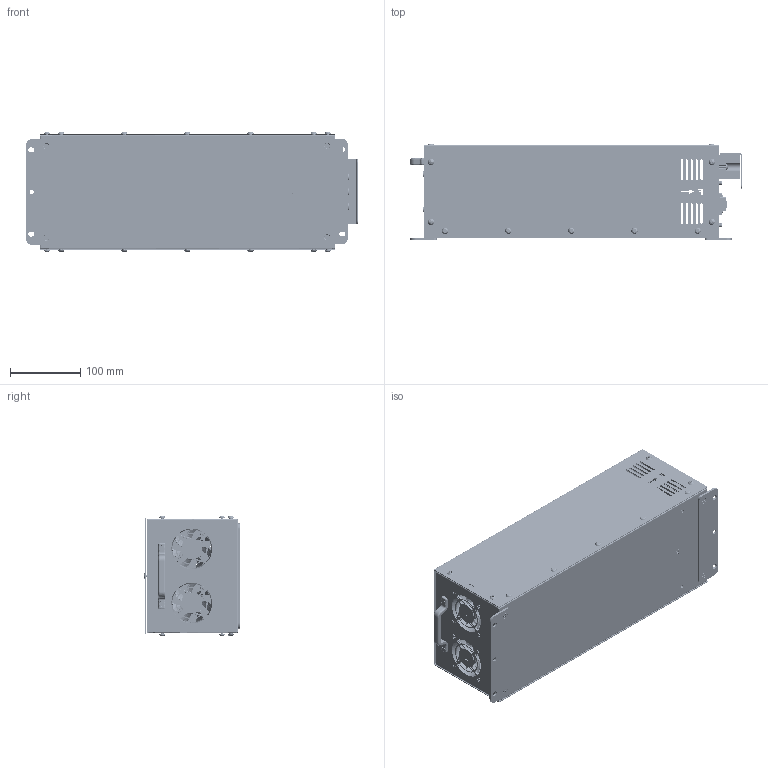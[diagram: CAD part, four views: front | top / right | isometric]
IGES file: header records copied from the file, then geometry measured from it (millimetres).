
Global section: file name: VX2COM_OLED_Handle3_2026.06.09_단순화_1; native system: Autodesk Inventor 2026; preprocessor: unknown; author: Administrator; date: 20260821.171238; units: millimetre
Bounding box: 471.76 x 137.64 x 171.09 mm (x, y, z)
Volume: 602432.2 mm3; surface area: 745353.6 mm2
Topology: 14 solids, 14 shells, 6783 faces, 18689 edges, 12348 vertices
Faces by surface type: bspline 6783
